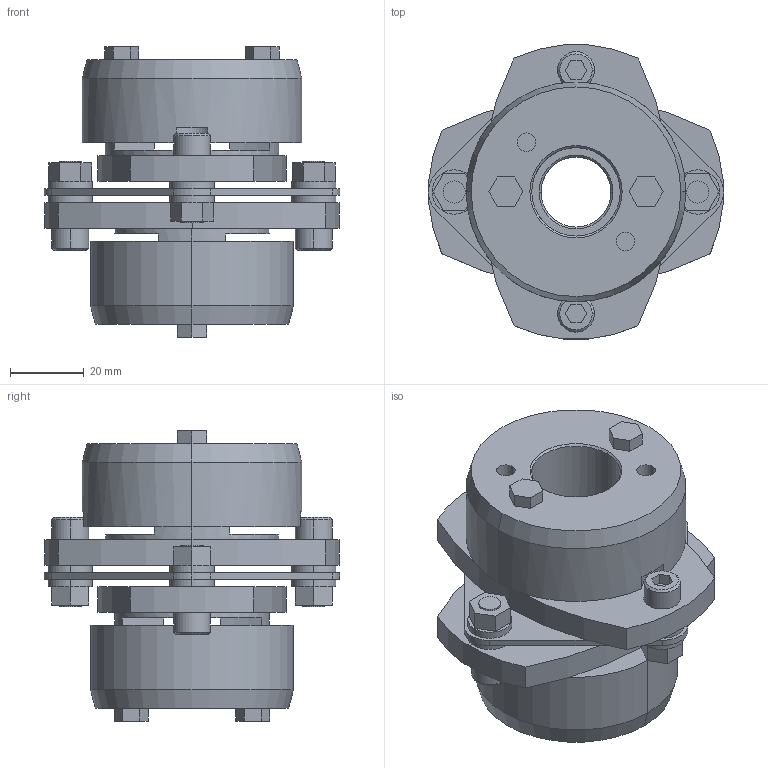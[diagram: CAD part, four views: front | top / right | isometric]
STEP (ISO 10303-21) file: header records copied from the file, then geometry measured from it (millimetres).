
FILE_DESCRIPTION((''),'2;1');
FILE_NAME('LCS-80T7-19×24.stp','2011-09-12T15:19:49',(''),(''),'AutoCAD STEP 2000i','AutoCAD 2000i',', , ');
FILE_SCHEMA(('CONFIG_CONTROL_DESIGN'));
Length unit declared in the file: millimetre
Products named in the file (9): LCS-80T7-19×24; 忣兜1; LC80T7-T024; LC80T7-T022; LC80T7-T019-1; LC80T7-T019; LC80T7-T017-1; LC80T7-T017; LCS80-ITA
Assembly tree (8 placements, depth 2):
  LCS-80T7-19×24
    忣兜1
    LC80T7-T024
    LC80T7-T022
    LC80T7-T019-1
    LC80T7-T019
    LC80T7-T017-1
    LC80T7-T017
    LCS80-ITA
Bounding box: 80 x 79.95 x 78.75 mm (x, y, z)
Volume: 156597.9 mm3; surface area: 43347.8 mm2
Topology: 1 solids, 1 shells, 222 faces, 544 edges, 356 vertices
Faces by surface type: plane 120, cylinder 82, cone 20
Entity records: 6815 total; most frequent: DIRECTION 1210, CARTESIAN_POINT 1131, ORIENTED_EDGE 1088, EDGE_CURVE 544, AXIS2_PLACEMENT_3D 435, VERTEX_POINT 356, VECTOR 340, LINE 340
